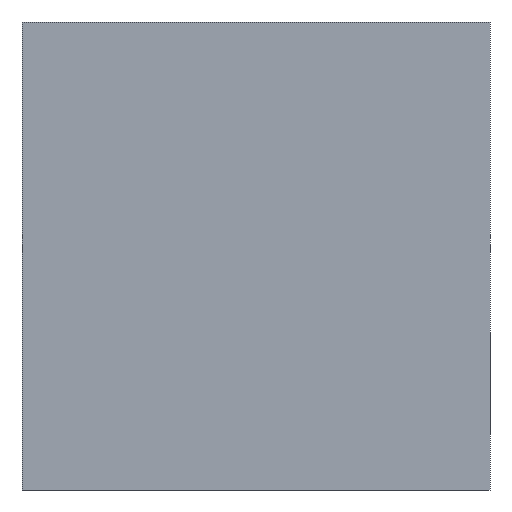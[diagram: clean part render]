
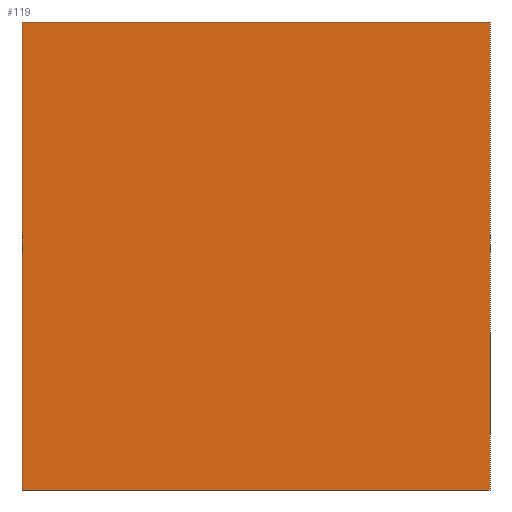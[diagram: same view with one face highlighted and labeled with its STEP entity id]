
A CAD part, front view. The second image highlights one B-rep face of the part: STEP entity #119.
In plain terms, the highlighted planar face has unit normal (0, -1, 0).
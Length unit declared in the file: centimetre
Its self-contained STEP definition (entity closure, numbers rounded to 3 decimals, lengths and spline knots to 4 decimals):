
#31 = VECTOR ( 'NONE', #540, 100. ) ;
#38 = CARTESIAN_POINT ( 'NONE',  ( 1000., 0., 1000. ) ) ;
#43 = EDGE_LOOP ( 'NONE', ( #63, #379, #443, #329 ) ) ;
#48 = LINE ( 'NONE', #38, #157 ) ;
#54 = CARTESIAN_POINT ( 'NONE',  ( 0., 0., 1000. ) ) ;
#58 = VECTOR ( 'NONE', #222, 100. ) ;
#59 = DIRECTION ( 'NONE',  ( 1., 0., 0. ) ) ;
#63 = ORIENTED_EDGE ( 'NONE', *, *, #482, .T. ) ;
#119 = ADVANCED_FACE ( 'NONE', ( #153 ), #292, .F. ) ;
#153 = FACE_OUTER_BOUND ( 'NONE', #43, .T. ) ;
#157 = VECTOR ( 'NONE', #403, 100. ) ;
#222 = DIRECTION ( 'NONE',  ( 1., 0., 0. ) ) ;
#228 = CARTESIAN_POINT ( 'NONE',  ( 0., 0., 1000. ) ) ;
#243 = VERTEX_POINT ( 'NONE', #252 ) ;
#252 = CARTESIAN_POINT ( 'NONE',  ( 1000., 0., 1000. ) ) ;
#256 = VERTEX_POINT ( 'NONE', #334 ) ;
#269 = VECTOR ( 'NONE', #59, 100. ) ;
#275 = LINE ( 'NONE', #368, #58 ) ;
#292 = PLANE ( 'NONE',  #485 ) ;
#308 = EDGE_CURVE ( 'NONE', #599, #424, #571, .T. ) ;
#329 = ORIENTED_EDGE ( 'NONE', *, *, #308, .T. ) ;
#334 = CARTESIAN_POINT ( 'NONE',  ( 1000., 0., 0. ) ) ;
#340 = CARTESIAN_POINT ( 'NONE',  ( 0., 0., 1000. ) ) ;
#368 = CARTESIAN_POINT ( 'NONE',  ( 0., 0., 0. ) ) ;
#372 = LINE ( 'NONE', #228, #269 ) ;
#379 = ORIENTED_EDGE ( 'NONE', *, *, #386, .F. ) ;
#386 = EDGE_CURVE ( 'NONE', #243, #256, #48, .T. ) ;
#403 = DIRECTION ( 'NONE',  ( 0., 0., -1. ) ) ;
#424 = VERTEX_POINT ( 'NONE', #589 ) ;
#442 = DIRECTION ( 'NONE',  ( 0., 1., 0. ) ) ;
#443 = ORIENTED_EDGE ( 'NONE', *, *, #444, .F. ) ;
#444 = EDGE_CURVE ( 'NONE', #599, #243, #372, .T. ) ;
#482 = EDGE_CURVE ( 'NONE', #424, #256, #275, .T. ) ;
#485 = AXIS2_PLACEMENT_3D ( 'NONE', #533, #442, #585 ) ;
#533 = CARTESIAN_POINT ( 'NONE',  ( 0., 0., 1000. ) ) ;
#540 = DIRECTION ( 'NONE',  ( 0., 0., -1. ) ) ;
#571 = LINE ( 'NONE', #340, #31 ) ;
#585 = DIRECTION ( 'NONE',  ( 0., 0., 1. ) ) ;
#589 = CARTESIAN_POINT ( 'NONE',  ( 0., 0., 0. ) ) ;
#599 = VERTEX_POINT ( 'NONE', #54 ) ;
